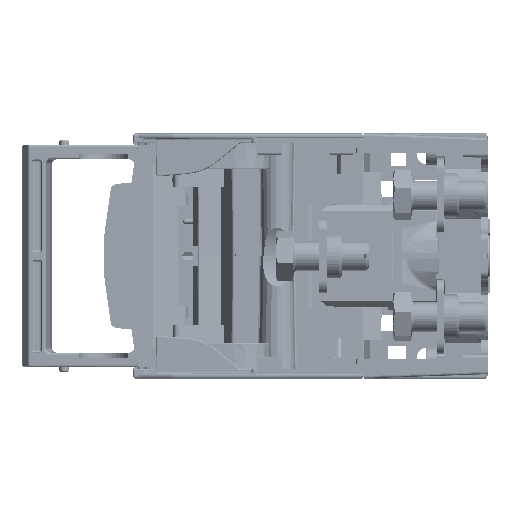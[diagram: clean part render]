
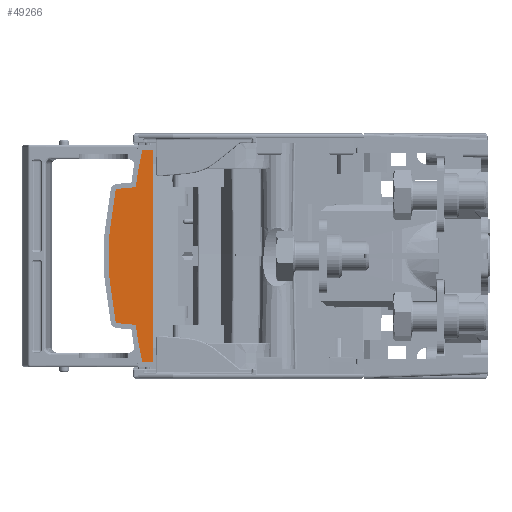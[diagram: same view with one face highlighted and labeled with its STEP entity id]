
A CAD part, left-side view. The second image highlights one B-rep face of the part: STEP entity #49266.
In plain terms, the highlighted planar face has unit normal (-1, 0, 0).
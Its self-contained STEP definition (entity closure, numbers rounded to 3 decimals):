
#394 = CARTESIAN_POINT ( 'NONE',  ( -375., 85., 43. ) ) ;
#659 = CARTESIAN_POINT ( 'NONE',  ( -375., 99.363, -27.16 ) ) ;
#737 = CARTESIAN_POINT ( 'NONE',  ( -375., 88.585, 43. ) ) ;
#1626 = CARTESIAN_POINT ( 'NONE',  ( -375., 88.585, -43. ) ) ;
#1762 = CARTESIAN_POINT ( 'NONE',  ( -375., 92.088, 27.796 ) ) ;
#3196 = CARTESIAN_POINT ( 'NONE',  ( -375., 99.276, 26.163 ) ) ;
#3199 = DIRECTION ( 'NONE',  ( -1., 0., 0. ) ) ;
#3201 = DIRECTION ( 'NONE',  ( 0., 0., 1. ) ) ;
#20900 = CARTESIAN_POINT ( 'NONE',  ( -375., 88.585, -42. ) ) ;
#20903 = DIRECTION ( 'NONE',  ( -1., 0., 0. ) ) ;
#20904 = DIRECTION ( 'NONE',  ( 0., 0., 1. ) ) ;
#27052 = CARTESIAN_POINT ( 'NONE',  ( -375., -109., 0. ) ) ;
#27057 = DIRECTION ( 'NONE',  ( 1., 0., 0. ) ) ;
#27062 = DIRECTION ( 'NONE',  ( 0., 0., -1. ) ) ;
#27811 = CARTESIAN_POINT ( 'NONE',  ( -375., -25., 0. ) ) ;
#27813 = DIRECTION ( 'NONE',  ( -1., 0., 0. ) ) ;
#27817 = DIRECTION ( 'NONE',  ( 0., 0., 1. ) ) ;
#28711 = LINE ( 'NONE', #28721, #166950 ) ;
#28721 = CARTESIAN_POINT ( 'NONE',  ( -375., 89.394, 43. ) ) ;
#28726 = DIRECTION ( 'NONE',  ( 0., -1., 0. ) ) ;
#28767 = CARTESIAN_POINT ( 'NONE',  ( -375., -109., 0. ) ) ;
#28772 = DIRECTION ( 'NONE',  ( -1., 0., 0. ) ) ;
#28777 = DIRECTION ( 'NONE',  ( 0., 0., 1. ) ) ;
#47603 = EDGE_CURVE ( 'NONE', #469678, #470653, #232838, .T. ) ;
#49266 = ADVANCED_FACE ( 'NONE', ( #91168 ), #91181, .T. ) ;
#51023 = EDGE_CURVE ( 'NONE', #469609, #470376, #222497, .T. ) ;
#53698 = EDGE_CURVE ( 'NONE', #468963, #470008, #73686, .T. ) ;
#54806 = EDGE_CURVE ( 'NONE', #470653, #167347, #167948, .T. ) ;
#55003 = EDGE_CURVE ( 'NONE', #469019, #468785, #28711, .T. ) ;
#55009 = EDGE_CURVE ( 'NONE', #470008, #470237, #166966, .T. ) ;
#55840 = EDGE_CURVE ( 'NONE', #470237, #469531, #405941, .T. ) ;
#56519 = EDGE_CURVE ( 'NONE', #469531, #470015, #325145, .T. ) ;
#56634 = EDGE_CURVE ( 'NONE', #469678, #469609, #325568, .T. ) ;
#56757 = EDGE_CURVE ( 'NONE', #470015, #468785, #326276, .T. ) ;
#56866 = EDGE_CURVE ( 'NONE', #469019, #470376, #281721, .T. ) ;
#57450 = EDGE_CURVE ( 'NONE', #167347, #468963, #278460, .T. ) ;
#73686 = LINE ( 'NONE', #73690, #167765 ) ;
#73690 = CARTESIAN_POINT ( 'NONE',  ( -375., 100.099, -27.095 ) ) ;
#73693 = DIRECTION ( 'NONE',  ( 0., -0.996, -0.087 ) ) ;
#91168 = FACE_OUTER_BOUND ( 'NONE', #308985, .T. ) ;
#91181 = PLANE ( 'NONE',  #208283 ) ;
#91243 = CARTESIAN_POINT ( 'NONE',  ( -375., -109., 0. ) ) ;
#91247 = DIRECTION ( 'NONE',  ( -1., 0., 0. ) ) ;
#91250 = DIRECTION ( 'NONE',  ( 0., 0., 1. ) ) ;
#92724 = CARTESIAN_POINT ( 'NONE',  ( -375., 99.363, 27.16 ) ) ;
#93561 = CARTESIAN_POINT ( 'NONE',  ( -375., 92.088, -27.796 ) ) ;
#93583 = CARTESIAN_POINT ( 'NONE',  ( -375., 85., -43. ) ) ;
#94211 = CARTESIAN_POINT ( 'NONE',  ( -375., 89.564, -42.208 ) ) ;
#94821 = CARTESIAN_POINT ( 'NONE',  ( -375., 89.564, 42.208 ) ) ;
#95715 = CARTESIAN_POINT ( 'NONE',  ( -375., 100.254, 26.369 ) ) ;
#166925 = AXIS2_PLACEMENT_3D ( 'NONE', #28767, #28772, #28777 ) ;
#166950 = VECTOR ( 'NONE', #28726, 1000. ) ;
#166966 = CIRCLE ( 'NONE', #166925, 203. ) ;
#167347 = VERTEX_POINT ( 'NONE', #341188 ) ;
#167765 = VECTOR ( 'NONE', #73693, 1000. ) ;
#167868 = AXIS2_PLACEMENT_3D ( 'NONE', #27811, #27813, #27817 ) ;
#167948 = CIRCLE ( 'NONE', #167868, 128. ) ;
#208283 = AXIS2_PLACEMENT_3D ( 'NONE', #91243, #91247, #91250 ) ;
#222497 = CIRCLE ( 'NONE', #222504, 203. ) ;
#222504 = AXIS2_PLACEMENT_3D ( 'NONE', #27052, #27057, #27062 ) ;
#232838 = CIRCLE ( 'NONE', #233991, 1. ) ;
#233991 = AXIS2_PLACEMENT_3D ( 'NONE', #3196, #3199, #3201 ) ;
#277882 = VECTOR ( 'NONE', #325608, 1000. ) ;
#278428 = AXIS2_PLACEMENT_3D ( 'NONE', #523050, #523058, #523067 ) ;
#278460 = CIRCLE ( 'NONE', #278428, 1. ) ;
#279302 = VECTOR ( 'NONE', #325171, 1000. ) ;
#281679 = AXIS2_PLACEMENT_3D ( 'NONE', #326817, #326820, #326824 ) ;
#281721 = CIRCLE ( 'NONE', #281679, 1. ) ;
#282786 = VECTOR ( 'NONE', #326315, 1000. ) ;
#308985 = EDGE_LOOP ( 'NONE', ( #345877, #345887, #346003, #345989, #346279, #346259, #524811, #524785, #515695, #515524, #517510, #520555 ) ) ;
#325145 = LINE ( 'NONE', #325166, #279302 ) ;
#325166 = CARTESIAN_POINT ( 'NONE',  ( -375., 89.394, -43. ) ) ;
#325171 = DIRECTION ( 'NONE',  ( 0., -1., 0. ) ) ;
#325564 = CARTESIAN_POINT ( 'NONE',  ( -375., 100.099, 27.095 ) ) ;
#325568 = LINE ( 'NONE', #325564, #277882 ) ;
#325608 = DIRECTION ( 'NONE',  ( 0., -0.996, 0.087 ) ) ;
#326245 = CARTESIAN_POINT ( 'NONE',  ( -375., 85., -43. ) ) ;
#326276 = LINE ( 'NONE', #326245, #282786 ) ;
#326315 = DIRECTION ( 'NONE',  ( 0., 0., 1. ) ) ;
#326817 = CARTESIAN_POINT ( 'NONE',  ( -375., 88.585, 42. ) ) ;
#326820 = DIRECTION ( 'NONE',  ( -1., 0., 0. ) ) ;
#326824 = DIRECTION ( 'NONE',  ( 0., 0., 1. ) ) ;
#341188 = CARTESIAN_POINT ( 'NONE',  ( -375., 100.254, -26.369 ) ) ;
#345877 = ORIENTED_EDGE ( 'NONE', *, *, #55003, .F. ) ;
#345887 = ORIENTED_EDGE ( 'NONE', *, *, #56866, .T. ) ;
#345989 = ORIENTED_EDGE ( 'NONE', *, *, #56634, .F. ) ;
#346003 = ORIENTED_EDGE ( 'NONE', *, *, #51023, .F. ) ;
#346259 = ORIENTED_EDGE ( 'NONE', *, *, #54806, .T. ) ;
#346279 = ORIENTED_EDGE ( 'NONE', *, *, #47603, .T. ) ;
#405926 = AXIS2_PLACEMENT_3D ( 'NONE', #20900, #20903, #20904 ) ;
#405941 = CIRCLE ( 'NONE', #405926, 1. ) ;
#468785 = VERTEX_POINT ( 'NONE', #394 ) ;
#468963 = VERTEX_POINT ( 'NONE', #659 ) ;
#469019 = VERTEX_POINT ( 'NONE', #737 ) ;
#469531 = VERTEX_POINT ( 'NONE', #1626 ) ;
#469609 = VERTEX_POINT ( 'NONE', #1762 ) ;
#469678 = VERTEX_POINT ( 'NONE', #92724 ) ;
#470008 = VERTEX_POINT ( 'NONE', #93561 ) ;
#470015 = VERTEX_POINT ( 'NONE', #93583 ) ;
#470237 = VERTEX_POINT ( 'NONE', #94211 ) ;
#470376 = VERTEX_POINT ( 'NONE', #94821 ) ;
#470653 = VERTEX_POINT ( 'NONE', #95715 ) ;
#515524 = ORIENTED_EDGE ( 'NONE', *, *, #55840, .T. ) ;
#515695 = ORIENTED_EDGE ( 'NONE', *, *, #55009, .T. ) ;
#517510 = ORIENTED_EDGE ( 'NONE', *, *, #56519, .T. ) ;
#520555 = ORIENTED_EDGE ( 'NONE', *, *, #56757, .T. ) ;
#523050 = CARTESIAN_POINT ( 'NONE',  ( -375., 99.276, -26.163 ) ) ;
#523058 = DIRECTION ( 'NONE',  ( -1., 0., 0. ) ) ;
#523067 = DIRECTION ( 'NONE',  ( 0., 0., 1. ) ) ;
#524785 = ORIENTED_EDGE ( 'NONE', *, *, #53698, .T. ) ;
#524811 = ORIENTED_EDGE ( 'NONE', *, *, #57450, .T. ) ;
